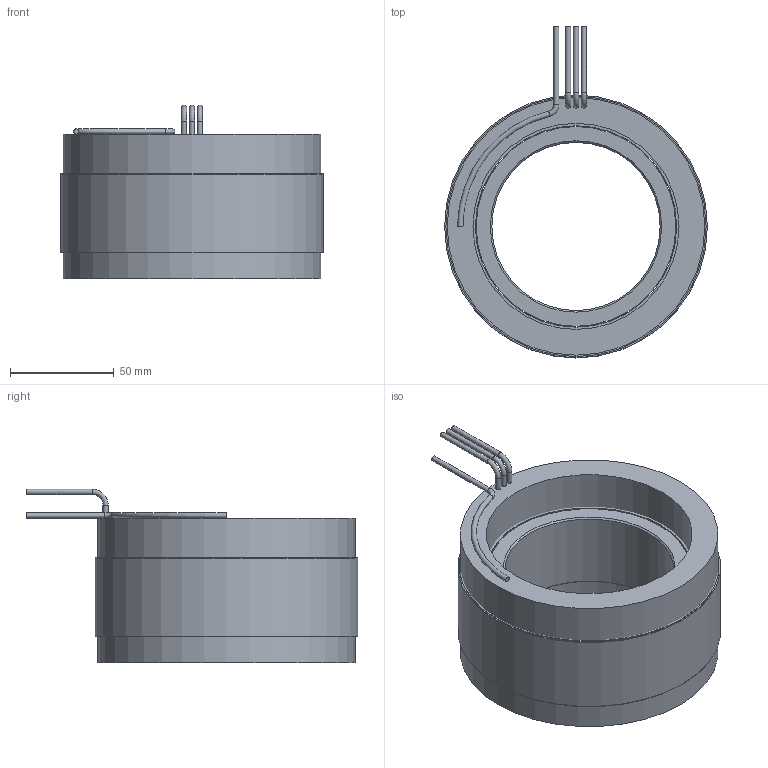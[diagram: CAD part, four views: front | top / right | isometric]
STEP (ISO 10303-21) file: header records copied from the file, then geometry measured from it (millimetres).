
FILE_DESCRIPTION (( 'STEP AP214' ), '1' );
FILE_NAME ('6100398-03.STEP', '2020-12-27T03:06:44', ( '' ), ( '' ), 'SwSTEP 2.0', 'SolidWorks 2016', '' );
FILE_SCHEMA (( 'AUTOMOTIVE_DESIGN' ));
Length unit declared in the file: inch
Products named in the file (10): 4400106-00; 4500563-XX_4500563-03; 6100398-03; 4600570-00; 4450194-XX_4450194-03; COMP4500563-XX(COIL)_COMP4500563-03(COIL); 4250386-XX_4250386-03; 4150184-XX_4150184-03
Assembly tree (10 placements, depth 4):
  6100398-03
    4250386-XX_4250386-03
      4150184-XX_4150184-03
    4500563-XX_4500563-03
      COMP4500563-XX(COIL)_COMP4500563-03(COIL)
      4450194-XX_4450194-03
        4450194-XX_4450194-03
        4400106-00
        4400106-00
        4600570-00  x2
Bounding box: 127 x 160.29 x 83.82 mm (x, y, z)
Volume: 590177.7 mm3; surface area: 163882.1 mm2
Topology: 8 solids, 8 shells, 47 faces, 74 edges, 46 vertices
Faces by surface type: cylinder 21, plane 19, torus 5, cone 2
Full cylindrical faces by diameter (mm): 2.54 x7, 81.28 x1, 96.52 x1, 97.282 x5, 99.568 x1, 124.46 x1, 125.73 x2, 127 x3
Entity records: 1305 total; most frequent: DIRECTION 202, CARTESIAN_POINT 143, AXIS2_PLACEMENT_3D 101, ORIENTED_EDGE 84, EDGE_LOOP 84, FACE_OUTER_BOUND 67, ADVANCED_FACE 43, VERTEX_POINT 42
